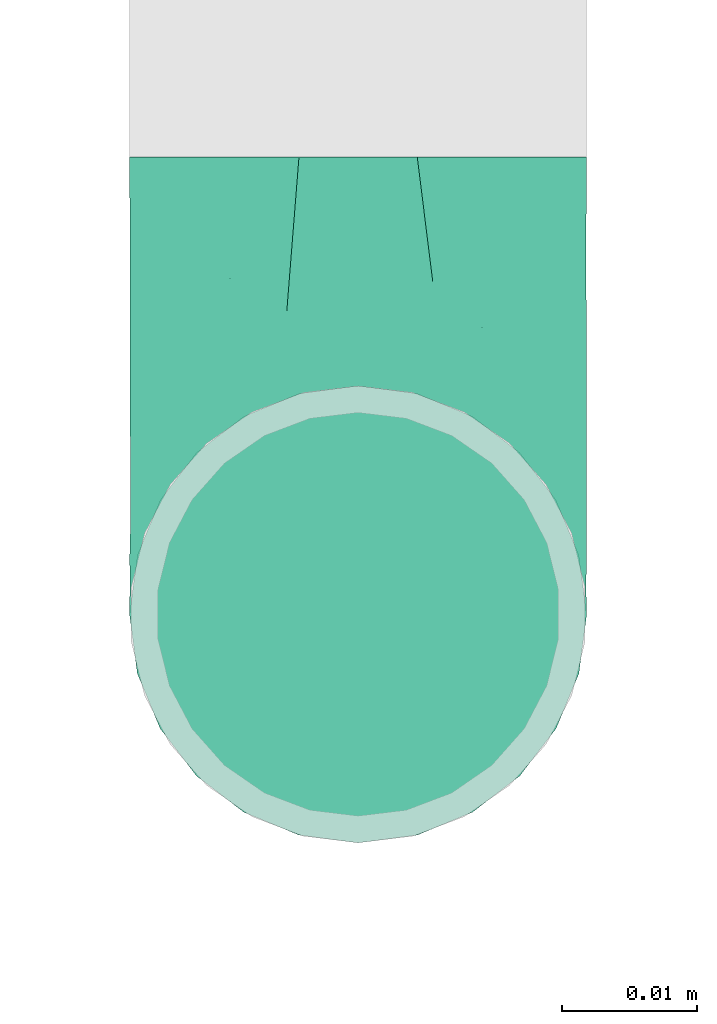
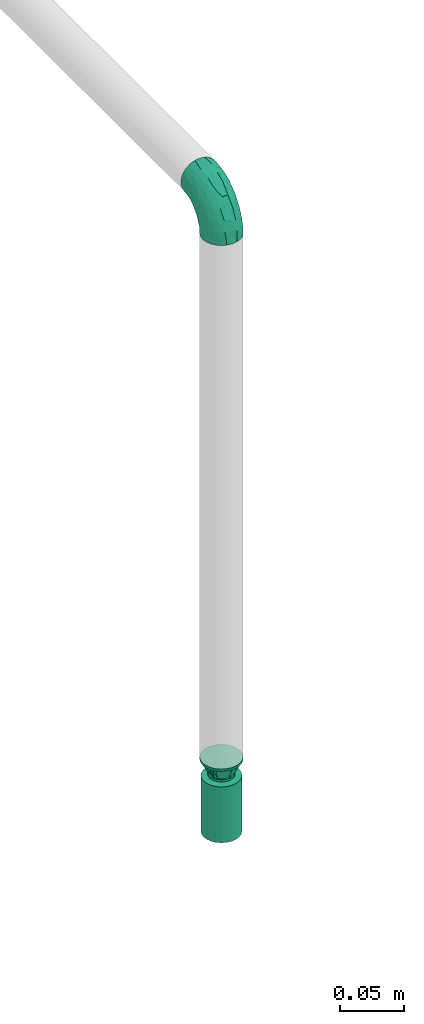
# One storey, part 39 of 95: 2 flow fittings, 1 flow terminal.
"""IFC2X3 building model written with IfcOpenShell, lengths in millimetres."""

from ifc_helpers import new_model, entity, si_unit, converted_unit, derived_unit, direction, frame, origin_with_axes, place, context, subcontext, project, spatial, open_shell, surface_model, source, transform, mapped, type_object, element, save


model = new_model("IFC2X3")

# Units and contexts
model_context = context("Model", 3, precision=0.01, world=frame((0.0, 4.29681676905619e-09, 0.0)), true_north=direction((4.01073788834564e-13, 1.0)))
plan_context = context("Plan", 3, precision=0.01, world=frame((0.0, 4.29681676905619e-09, 0.0)), true_north=direction((4.01073788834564e-13, 1.0)))
body_context = subcontext(model_context, "Body", "Model", "MODEL_VIEW")
ifc_project = project(units=[converted_unit("PLANEANGLEUNIT", "DEGREE", entity("IfcPositiveLengthMeasure", 0.0174532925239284), si_unit("PLANEANGLEUNIT", "RADIAN"), dimensions=[0, 0, 0, 0, 0, 0, 0]), si_unit("AREAUNIT", "SQUARE_METRE"), si_unit("LENGTHUNIT", "METRE", prefix="MILLI"), si_unit("MASSUNIT", "GRAM", prefix="KILO"), si_unit("POWERUNIT", "WATT"), si_unit("PRESSUREUNIT", "PASCAL"), si_unit("FORCEUNIT", "NEWTON", prefix="KILO"), si_unit("ELECTRICVOLTAGEUNIT", "VOLT"), si_unit("ELECTRICCURRENTUNIT", "AMPERE"), si_unit("THERMODYNAMICTEMPERATUREUNIT", "DEGREE_CELSIUS"), si_unit("TIMEUNIT", "SECOND"), si_unit("VOLUMEUNIT", "CUBIC_METRE"), derived_unit("LINEARVELOCITYUNIT", [(si_unit("LENGTHUNIT", "METRE"), 1), (si_unit("TIMEUNIT", "SECOND"), -1)]), derived_unit("VOLUMETRICFLOWRATEUNIT", [(si_unit("VOLUMEUNIT", "CUBIC_METRE"), 1), (si_unit("TIMEUNIT", "SECOND"), -1)]), derived_unit("THERMALTRANSMITTANCEUNIT", [(si_unit("POWERUNIT", "WATT"), 1), (si_unit("THERMODYNAMICTEMPERATUREUNIT", "KELVIN"), -1), (si_unit("AREAUNIT", "SQUARE_METRE"), -1)]), derived_unit("SOUNDPRESSUREUNIT", [(si_unit("PRESSUREUNIT", "PASCAL"), 1)])], contexts=[model_context, plan_context])

# Site, building, storey
site_placement = place(None, frame((0.0, -4.29681676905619e-09, 0.0), z_axis=(0.0, 0.0, 1.0), x_axis=(1.0, 0.0, 0.0)))
site = spatial("IfcSite", under=ifc_project, at=site_placement, CompositionType="ELEMENT")
building_placement = place(site_placement, frame((0.0, 4.29681676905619e-09, 0.0), z_axis=(0.0, 0.0, 1.0), x_axis=(1.0, 0.0, 0.0)))
building = spatial("IfcBuilding", under=site, at=building_placement, Name="mc-building", CompositionType="ELEMENT")
storey_placement = place(building_placement, frame((0.0, 0.0, 210900.0), z_axis=(0.0, 0.0, 1.0), x_axis=(1.0, 0.0, 0.0)))
storey = spatial("IfcBuildingStorey", under=building, at=storey_placement, Name="Nivå F", CompositionType="ELEMENT", Elevation=210900.0)

# Flow fittings
pipe_fitting_type_1 = type_object("IfcPipeFittingType", Name="magi_pipe_fe_reducer_centric_short_NOR", PredefinedType="TRANSITION")
shared_shape_1 = source(origin_with_axes(), body_context, "Body", "SurfaceModel", [
    surface_model("IfcShellBasedSurfaceModel", [(-2.0, -7.56604, -7.56604), (-2.0, -10.33541, -2.76936), (-2.0, -5.35, -9.26647), (-2.0, 5.35, -9.26647), (-2.0, 10.33541, -2.76936), (-2.0, 7.56604, -7.56604), (12.4, 11.9501, 11.9501), (12.4, 0.0, 16.9), (12.4, 11.9501, -11.9501), (12.4, 16.9, 0.0), (0.0, -10.7, 0.0), (0.0, -5.35, 9.26647), (0.0, -5.35, -9.26647), (0.0, 10.7, 0.0), (12.4, 15.66253, -2.98753), (12.4, 8.96258, -13.18758), (0.0, 6.6875, -6.94985), (12.4, -15.66253, -2.98753), (12.4, -16.9, 0.0), (12.4, 5.97505, -14.42505), (0.0, 5.35, -9.26647), (12.4, 14.42505, -5.97505), (0.0, 8.025, -4.63324), (0.0, 9.3625, -2.31662), (0.0, -9.3625, -2.31662), (0.0, -8.025, -4.63324), (12.4, -14.42505, -5.97505), (12.4, 13.18758, -8.96258), (12.4, -13.18758, -8.96258), (12.4, -11.9501, -11.9501), (0.0, -6.6875, -6.94985), (12.4, -8.96258, -13.18758), (12.4, -5.97505, -14.42505), (12.4, -15.66253, 2.98753), (12.4, -8.96258, 13.18758), (0.0, -6.6875, 6.94985), (12.4, -11.9501, 11.9501), (12.4, 15.66253, 2.98753), (12.4, -5.97505, 14.42505), (12.4, -14.42505, 5.97505), (0.0, -8.025, 4.63324), (0.0, -9.3625, 2.31662), (0.0, 9.3625, 2.31662), (0.0, 8.025, 4.63324), (12.4, 14.42505, 5.97505), (12.4, -13.18758, 8.96258), (12.4, 13.18758, 8.96258), (0.0, 6.6875, 6.94985), (12.4, 8.96258, 13.18758), (0.0, 5.35, 9.26647), (12.4, 5.97505, 14.42505), (14.4, 4.37404, -16.32415), (14.4, 8.45, -14.63583), (14.4, 11.9501, -11.9501), (14.4, -8.45, -14.63583), (14.4, 16.32415, -4.37404), (14.4, 16.32415, 4.37404), (14.4, 14.63583, -8.45), (14.4, 0.0, -16.9), (14.4, -4.37404, -16.32415), (14.4, -11.9501, -11.9501), (14.4, -16.32415, -4.37404), (14.4, -14.63583, -8.45), (14.4, -16.32415, 4.37404), (14.4, 16.9, 0.0), (14.4, 14.63583, 8.45), (14.4, 11.9501, 11.9501), (14.4, 4.37404, 16.32415), (14.4, 8.45, 14.63583), (14.4, 0.0, 16.9), (14.4, -14.63583, 8.45), (14.4, -16.9, 0.0), (14.4, -8.45, 14.63583), (14.4, -11.9501, 11.9501), (14.4, -4.37404, 16.32415), (12.4, 4.37404, 16.32415), (12.4, -14.63583, 8.45), (12.4, 16.32415, 4.37404), (12.4, 8.45, 14.63583), (12.4, 14.63583, 8.45), (12.4, -8.45, 14.63583), (12.4, -4.37404, 16.32415), (12.4, -16.32415, 4.37404), (12.4, -16.32415, -4.37404), (12.4, -8.45, -14.63583), (12.4, 16.32415, -4.37404), (12.4, 14.63583, -8.45), (12.4, 8.45, -14.63583), (12.4, 4.37404, -16.32415), (12.4, 0.0, -16.9), (12.4, -14.63583, -8.45), (12.4, -4.37404, -16.32415), (-2.0, 2.76936, 10.33541), (-2.0, 0.0, 10.7), (-2.0, 5.35, 9.26647), (-2.0, 7.56604, 7.56604), (-2.0, 9.26647, 5.35), (-2.0, 10.33541, 2.76936), (-2.0, -10.33541, 2.76936), (-2.0, -2.76936, 10.33541), (-2.0, -7.56604, 7.56604), (-2.0, -5.35, 9.26647), (-2.0, -9.26647, 5.35), (-2.0, -10.7, 0.0), (-2.0, 9.26647, -5.35), (-2.0, 2.76936, -10.33541), (-2.0, -9.26647, -5.35), (-2.0, 0.0, -10.7), (-2.0, -2.76936, -10.33541), (-2.0, 10.7, 0.0), (0.0, 0.0, -10.7), (0.0, 2.76936, -10.33541), (0.0, 10.33541, -2.76936), (0.0, 7.56604, -7.56604), (0.0, -10.33541, -2.76936), (0.0, 9.26647, -5.35), (0.0, 0.0, 10.7), (0.0, -2.76936, -10.33541), (0.0, -7.56604, -7.56604), (0.0, -9.26647, -5.35), (0.0, 10.33541, 2.76936), (0.0, 9.26647, 5.35), (0.0, 7.56604, 7.56604), (0.0, 2.76936, 10.33541), (0.0, -7.56604, 7.56604), (0.0, -10.33541, 2.76936), (0.0, -9.26647, 5.35), (0.0, -2.76936, 10.33541), (0.0, 2.675, -9.26647), (0.0, -2.675, -9.26647), (12.4, 2.98753, -15.66253), (0.0, 0.0, -9.26647), (12.4, -2.98753, -15.66253), (0.0, -2.675, 9.26647), (0.0, 2.675, 9.26647), (12.4, -2.98753, 15.66253), (0.0, 0.0, 9.26647), (12.4, 2.98753, 15.66253)], [open_shell([[[0, 1, 2]], [[3, 4, 5]], [[6, 7, 8]], [[8, 9, 6]], [[10, 11, 12]], [[13, 9, 14]], [[15, 16, 8]], [[17, 18, 10]], [[15, 19, 20]], [[21, 22, 23]], [[24, 25, 26]], [[22, 21, 27]], [[28, 26, 25]], [[29, 30, 31]], [[12, 32, 31]], [[10, 18, 33]], [[34, 35, 36]], [[37, 9, 13]], [[34, 38, 11]], [[39, 40, 41]], [[42, 43, 44]], [[40, 39, 45]], [[46, 44, 43]], [[6, 47, 48]], [[49, 50, 48]], [[51, 52, 53]], [[54, 51, 53]], [[53, 55, 56]], [[55, 53, 57]], [[53, 56, 54]], [[58, 54, 59]], [[58, 51, 54]], [[60, 61, 62]], [[61, 60, 54]], [[54, 63, 61]], [[56, 55, 64]], [[56, 65, 66]], [[56, 66, 67]], [[67, 63, 54]], [[67, 66, 68]], [[63, 67, 69]], [[69, 70, 63]], [[71, 61, 63]], [[70, 72, 73]], [[70, 69, 72]], [[72, 69, 74]], [[54, 56, 67]], [[75, 76, 7]], [[77, 75, 78]], [[6, 79, 77]], [[6, 77, 78]], [[76, 75, 77]], [[80, 76, 36]], [[80, 81, 7]], [[7, 76, 80]], [[82, 76, 77]], [[82, 83, 18]], [[82, 77, 84]], [[77, 85, 8]], [[8, 85, 86]], [[8, 87, 88]], [[84, 77, 8]], [[88, 89, 8]], [[83, 29, 90]], [[29, 83, 84]], [[84, 89, 91]], [[83, 82, 84]], [[8, 89, 84]], [[85, 77, 9]], [[83, 61, 18]], [[90, 62, 83]], [[54, 29, 84]], [[90, 29, 60]], [[59, 84, 91]], [[83, 62, 61]], [[61, 71, 18]], [[59, 54, 84]], [[60, 29, 54]], [[60, 62, 90]], [[58, 59, 91]], [[91, 89, 58]], [[88, 51, 89]], [[87, 52, 88]], [[57, 8, 86]], [[87, 8, 53]], [[55, 86, 85]], [[87, 53, 52]], [[52, 51, 88]], [[64, 55, 85]], [[57, 86, 55]], [[57, 53, 8]], [[9, 64, 85]], [[89, 51, 58]], [[77, 56, 9]], [[79, 65, 77]], [[68, 6, 78]], [[79, 6, 66]], [[67, 78, 75]], [[77, 65, 56]], [[56, 64, 9]], [[67, 68, 78]], [[66, 6, 68]], [[66, 65, 79]], [[69, 67, 75]], [[75, 7, 69]], [[81, 74, 7]], [[80, 72, 81]], [[70, 36, 76]], [[80, 36, 73]], [[63, 76, 82]], [[80, 73, 72]], [[72, 74, 81]], [[71, 63, 82]], [[70, 76, 63]], [[70, 73, 36]], [[18, 71, 82]], [[7, 74, 69]], [[92, 1, 93]], [[94, 1, 92]], [[95, 96, 97]], [[95, 97, 94]], [[98, 93, 1]], [[99, 100, 101]], [[99, 93, 100]], [[100, 98, 102]], [[93, 98, 100]], [[98, 1, 103]], [[94, 97, 1]], [[1, 97, 4]], [[5, 4, 104]], [[4, 3, 1]], [[105, 1, 3]], [[1, 0, 106]], [[2, 107, 108]], [[2, 1, 105]], [[105, 107, 2]], [[4, 97, 109]], [[20, 110, 111]], [[112, 20, 113]], [[114, 20, 112]], [[112, 113, 115]], [[116, 114, 112]], [[110, 12, 117]], [[110, 20, 12]], [[118, 114, 119]], [[114, 118, 12]], [[20, 114, 12]], [[112, 13, 120]], [[120, 121, 122]], [[120, 122, 123]], [[116, 112, 123]], [[123, 122, 49]], [[116, 124, 114]], [[125, 124, 126]], [[10, 114, 125]], [[124, 127, 11]], [[125, 114, 124]], [[127, 124, 116]], [[123, 112, 120]], [[1, 114, 103]], [[106, 119, 1]], [[12, 0, 2]], [[106, 0, 118]], [[117, 2, 108]], [[1, 119, 114]], [[114, 10, 103]], [[117, 12, 2]], [[118, 0, 12]], [[118, 119, 106]], [[110, 117, 108]], [[108, 107, 110]], [[105, 111, 107]], [[3, 20, 105]], [[115, 5, 104]], [[3, 5, 113]], [[112, 104, 4]], [[3, 113, 20]], [[20, 111, 105]], [[13, 112, 4]], [[115, 104, 112]], [[115, 113, 5]], [[109, 13, 4]], [[107, 111, 110]], [[97, 120, 109]], [[96, 121, 97]], [[49, 95, 94]], [[96, 95, 122]], [[123, 94, 92]], [[97, 121, 120]], [[120, 13, 109]], [[123, 49, 94]], [[122, 95, 49]], [[122, 121, 96]], [[116, 123, 92]], [[92, 93, 116]], [[99, 127, 93]], [[101, 11, 99]], [[126, 100, 102]], [[101, 100, 124]], [[125, 102, 98]], [[101, 124, 11]], [[11, 127, 99]], [[10, 125, 98]], [[126, 102, 125]], [[126, 124, 100]], [[103, 10, 98]], [[93, 127, 116]], [[18, 7, 36]], [[18, 29, 8]], [[89, 8, 29]], [[18, 8, 7]], [[13, 11, 49]], [[13, 20, 12]], [[13, 12, 11]], [[24, 26, 17]], [[10, 24, 17]], [[16, 15, 20]], [[30, 12, 31]], [[23, 14, 21]], [[19, 128, 20]], [[27, 8, 16]], [[32, 12, 129]], [[30, 28, 25]], [[130, 131, 128]], [[129, 132, 32]], [[16, 22, 27]], [[13, 14, 23]], [[128, 19, 130]], [[130, 89, 131]], [[131, 132, 129]], [[89, 132, 131]], [[28, 30, 29]], [[42, 44, 37]], [[13, 42, 37]], [[35, 34, 11]], [[47, 49, 48]], [[41, 33, 39]], [[38, 133, 11]], [[45, 36, 35]], [[50, 49, 134]], [[47, 46, 43]], [[135, 136, 133]], [[134, 137, 50]], [[35, 40, 45]], [[10, 33, 41]], [[133, 38, 135]], [[135, 7, 136]], [[136, 137, 134]], [[7, 137, 136]], [[46, 47, 6]]])]),
])
flow_fitting_1_placement = place(storey_placement, frame((522698.68266, 444207.85, 3762.948), z_axis=(-1.0, 0.0, 0.0), x_axis=(0.0, 0.0, 1.0)))
element("IfcFlowFitting", 1, at=flow_fitting_1_placement, inside=storey, type_object=pipe_fitting_type_1, Name="magi_pipe_fe_reducer_centric_short_NOR", context=body_context, shape_type="MappedRepresentation", body=[
    mapped(shared_shape_1, transform((0.0, 0.0, 0.0), scale=1.0)),
])
pipe_fitting_type_2 = type_object("IfcPipeFittingType", Name="magi_pipe_fe_elbow_short_001", PredefinedType="BEND")
shared_shape_2 = source(origin_with_axes(), body_context, "Body", "SurfaceModel", [
    surface_model("IfcShellBasedSurfaceModel", [(-33.8, 8.45, -14.63583), (-33.8, 4.37404, -16.32415), (-33.8, 11.9501, -11.9501), (-33.8, -11.9501, -11.9501), (-33.8, -14.63583, -8.45), (-33.8, -8.45, -14.63583), (-33.8, 0.0, -16.9), (-33.8, -4.37404, -16.32415), (-33.8, -4.37404, 16.32415), (-33.8, 0.0, 16.9), (-33.8, -8.45, 14.63583), (-33.8, 16.32415, -4.37404), (-33.8, 14.63583, -8.45), (-33.8, -16.32415, -4.37404), (-33.8, -16.9, 0.0), (-33.8, -16.32415, 4.37404), (-33.8, 11.9501, 11.9501), (-33.8, 14.63583, 8.45), (-33.8, 16.32415, 4.37404), (-33.8, 4.37404, 16.32415), (-33.8, 8.45, 14.63583), (-33.8, -14.63583, 8.45), (-33.8, -11.9501, 11.9501), (-33.8, 16.9, 0.0), (-11.9501, 33.8, -11.9501), (0.0, 33.8, -16.9), (-4.37404, 33.8, -16.32415), (-8.45, 33.8, -14.63583), (-14.63583, 33.8, -8.45), (-16.32415, 33.8, -4.37404), (14.63583, 33.8, -8.45), (8.45, 33.8, 14.63583), (16.32415, 33.8, -4.37404), (8.45, 33.8, -14.63583), (11.9501, 33.8, -11.9501), (4.37404, 33.8, -16.32415), (16.32415, 33.8, 4.37404), (16.9, 33.8, 0.0), (-11.9501, 33.8, 11.9501), (-16.32415, 33.8, 4.37404), (-14.63583, 33.8, 8.45), (-8.45, 33.8, 14.63583), (-4.37404, 33.8, 16.32415), (11.9501, 33.8, 11.9501), (14.63583, 33.8, 8.45), (0.0, 33.8, 16.9), (4.37404, 33.8, 16.32415), (-16.9, 33.8, 0.0), (-24.79389, -13.12945, 9.48721), (-22.19287, -9.75018, 12.59315), (-24.09897, -14.97035, 0.0), (-14.93934, -10.76256, 8.5297), (-22.46095, -14.75051, 5.27077), (14.75051, 22.46094, 5.27077), (11.9251, 13.23888, 4.33236), (13.04069, 14.39795, 0.0), (7.71387, 13.68847, 11.55891), (9.75018, 22.19287, 12.59315), (4.10169, 13.0571, 14.04018), (-24.84007, -6.39063, 15.2048), (-25.81779, -2.23879, 16.61097), (-23.66549, 2.59054, 16.87119), (-26.50418, 14.06512, 11.08152), (-24.21253, 17.66365, 7.72657), (-29.58514, 15.86957, 7.00283), (-6.17382, -7.5455, 0.0), (-13.23888, -11.9251, 4.33236), (-14.39795, -13.04069, 0.0), (-17.81434, 18.87373, 11.97104), (-6.30846, 29.15138, 15.82987), (-2.31622, 25.28002, 16.85849), (-29.23923, 10.23435, 13.77053), (-1.45439, -2.85688, 7.61475), (-0.28326, 0.34872, 10.09509), (-5.74484, -4.04709, 10.4122), (-4.41137, 11.31918, 16.59407), (-8.39727, 3.10034, 15.7812), (-1.72649, 9.1306, 15.53089), (-17.39909, 24.75344, 7.64977), (-26.19233, 20.0512, 0.0), (-28.14518, 17.29657, 4.25857), (-26.05147, 6.6281, 15.96447), (-5.87354, 16.61944, 16.86968), (-12.51807, 12.51807, 16.48937), (-10.06312, 7.38516, 16.81295), (-3.01882, 3.01882, 13.81718), (-13.0571, -4.10169, 14.04018), (-16.82553, -0.15166, 16.38038), (10.76256, 14.93934, 8.5297), (13.12945, 24.79389, 9.48721), (6.39063, 24.84007, 15.2048), (2.23879, 25.81779, 16.61097), (-13.68847, -7.71387, 11.55891), (14.97035, 24.09897, 0.0), (-7.30894, 22.89991, 16.09489), (-10.67958, 26.17414, 14.008), (-12.78295, 18.26924, 15.06066), (-13.88562, 22.45231, 12.93244), (-18.04944, 15.16501, 14.04434), (-23.11658, 20.08178, 4.02986), (-21.84989, 21.84989, 0.0), (-18.55817, 25.48277, 3.93065), (-13.95142, 26.94732, 11.03289), (-18.57098, 7.23906, 16.59756), (-16.58335, 4.14122, 16.89279), (-17.96666, 11.46709, 15.63151), (-9.84453, 17.54304, 16.18938), (0.15166, 16.82553, 16.38038), (-23.27207, 11.47201, 14.23154), (3.84842, 5.86994, 10.70473), (-8.0212, -7.54413, 7.93275), (1.00345, -2.19508, 4.57414), (5.13203, 3.01004, 5.90201), (5.24161, 1.7543, 2.53265), (8.70457, 7.04947, 3.99182), (-20.0512, 26.19233, 0.0), (8.4852, 8.76699, 7.09296), (-4.55488, -6.72064, 4.90681), (2.05031, -2.05031, 0.0), (7.5455, 6.17382, 0.0), (-26.75399, 2.1369, -16.845), (-14.61995, 24.73803, -11.27736), (-28.45274, -13.45335, -9.81895), (-26.00469, 6.63555, -15.96645), (-23.06726, 20.04573, -4.26202), (-13.80647, -4.26506, -14.17873), (-14.67501, -0.21081, -16.07388), (-6.7902, -0.2828, -13.8478), (-24.53586, 11.08096, -14.13417), (-26.72048, 14.00837, -11.05776), (10.0967, 24.44989, -12.75976), (5.83237, 21.40218, -15.03047), (6.66249, 28.54238, -15.38093), (-20.38182, 15.48705, -12.74596), (12.53268, 21.23441, -9.15363), (12.54494, 15.67504, -5.54878), (9.7522, 12.89279, -8.66343), (-15.65186, 19.64213, -13.01327), (-12.03528, 20.66498, -14.67665), (-15.61907, 15.61906, -14.83879), (-25.56551, -15.26206, 0.0), (-24.65452, -15.12934, -5.50955), (13.45335, 28.45274, -9.81895), (15.12934, 24.65452, -5.50955), (-7.35442, -8.31014, -5.65563), (-15.67504, -12.54494, -5.54878), (-24.44989, -10.0967, -12.75976), (0.16522, 0.41303, -9.71728), (-5.70658, -5.33066, -8.89288), (-5.13869, -2.37198, -11.53565), (-21.23441, -12.53268, -9.15363), (0.71146, 7.93863, -14.09382), (0.21081, 14.67501, -16.07388), (3.49291, 14.42772, -14.76381), (-24.89911, -2.13088, -16.591), (-28.54238, -6.66249, -15.38093), (-18.44386, -7.71663, -13.26957), (2.13088, 24.89911, -16.591), (-28.64342, 17.44413, -2.89318), (1.70017, -1.28722, -5.09504), (-16.57067, 26.81947, -7.36596), (-17.69055, 27.4263, -3.76405), (-12.89279, -9.7522, -8.66343), (-5.96611, 5.96611, -15.95814), (-20.53709, 20.09345, -8.28985), (-2.1369, 26.75399, -16.845), (-6.89872, 24.58781, -16.02578), (-10.60739, 26.53157, -13.98044), (-21.40218, -5.83237, -15.03047), (2.93192, 5.89627, -11.55917), (6.89393, 12.61842, -11.82233), (5.58056, 5.95325, -8.79455), (-3.99512, 18.61798, -16.89635), (8.31014, 7.35442, -5.65563), (-9.1383, 9.86148, -16.89041), (-9.99983, 16.02119, -16.39699), (-16.68576, 9.78031, -16.34199), (-27.01915, 16.61158, -7.12979), (15.26206, 25.56551, 0.0), (-18.61798, 3.99512, -16.89635), (-19.37495, 27.82495, 0.0), (-12.61842, -6.89393, -11.82233), (-18.84705, 19.14018, -10.96545)], [open_shell([[[0, 1, 2]], [[3, 4, 5]], [[6, 7, 5]], [[8, 9, 10]], [[1, 6, 2]], [[11, 12, 2]], [[4, 2, 6]], [[2, 13, 10]], [[5, 4, 6]], [[2, 4, 13]], [[14, 15, 13]], [[11, 2, 16]], [[11, 17, 18]], [[11, 16, 17]], [[19, 20, 16]], [[16, 2, 10]], [[19, 16, 10]], [[21, 22, 15]], [[22, 13, 15]], [[22, 10, 13]], [[10, 9, 19]], [[11, 18, 23]], [[24, 25, 26]], [[24, 26, 27]], [[24, 28, 29]], [[25, 24, 30]], [[31, 32, 24]], [[33, 30, 34]], [[33, 35, 25]], [[25, 30, 33]], [[32, 30, 24]], [[32, 36, 37]], [[38, 24, 29]], [[39, 40, 29]], [[40, 38, 29]], [[38, 41, 42]], [[38, 31, 24]], [[31, 38, 42]], [[36, 43, 44]], [[36, 32, 43]], [[31, 45, 46]], [[32, 31, 43]], [[42, 45, 31]], [[39, 29, 47]], [[22, 48, 49]], [[15, 14, 50]], [[51, 48, 52]], [[53, 54, 55]], [[48, 22, 21]], [[15, 52, 21]], [[56, 57, 58]], [[49, 10, 22]], [[49, 59, 10]], [[9, 60, 61]], [[62, 63, 64]], [[65, 66, 67]], [[57, 43, 31]], [[62, 68, 63]], [[42, 69, 70]], [[20, 71, 16]], [[8, 60, 9]], [[72, 73, 74]], [[75, 76, 77]], [[16, 62, 17]], [[40, 39, 78]], [[79, 23, 80]], [[64, 18, 17]], [[9, 61, 19]], [[19, 81, 20]], [[82, 83, 84]], [[74, 85, 86]], [[59, 86, 87]], [[88, 89, 57]], [[90, 31, 46]], [[44, 53, 36]], [[46, 45, 91]], [[54, 53, 88]], [[44, 89, 53]], [[92, 86, 49]], [[89, 44, 43]], [[10, 59, 8]], [[53, 55, 93]], [[93, 36, 53]], [[66, 52, 67]], [[94, 82, 70]], [[95, 96, 94]], [[97, 98, 96]], [[79, 99, 100]], [[41, 38, 95]], [[101, 100, 99]], [[68, 78, 63]], [[42, 41, 69]], [[23, 18, 80]], [[95, 94, 69]], [[78, 101, 99]], [[38, 102, 95]], [[70, 45, 42]], [[97, 95, 102]], [[15, 50, 52]], [[90, 57, 31]], [[57, 90, 58]], [[81, 19, 61]], [[103, 104, 84]], [[105, 81, 103]], [[38, 40, 102]], [[106, 96, 83]], [[94, 106, 82]], [[91, 70, 107]], [[71, 62, 16]], [[62, 108, 98]], [[86, 59, 49]], [[67, 52, 50]], [[60, 59, 87]], [[92, 49, 51]], [[86, 85, 76]], [[91, 90, 46]], [[37, 36, 93]], [[107, 77, 58]], [[107, 58, 90]], [[58, 85, 109]], [[110, 74, 92]], [[72, 74, 110]], [[66, 51, 52]], [[72, 111, 112]], [[113, 114, 112]], [[56, 88, 57]], [[52, 48, 21]], [[49, 48, 51]], [[57, 89, 43]], [[53, 89, 88]], [[103, 81, 61]], [[71, 81, 108]], [[18, 64, 80]], [[63, 78, 99]], [[47, 115, 101]], [[101, 115, 100]], [[40, 78, 102]], [[68, 102, 78]], [[97, 96, 95]], [[105, 98, 108]], [[103, 84, 83]], [[107, 70, 82]], [[76, 84, 87]], [[82, 84, 75]], [[70, 91, 45]], [[90, 91, 107]], [[59, 60, 8]], [[61, 60, 87]], [[73, 85, 74]], [[109, 112, 116]], [[103, 61, 104]], [[105, 103, 83]], [[96, 105, 83]], [[81, 105, 108]], [[96, 98, 105]], [[62, 98, 68]], [[61, 87, 104]], [[87, 84, 104]], [[86, 76, 87]], [[77, 76, 85]], [[58, 77, 85]], [[75, 77, 107]], [[82, 75, 107]], [[76, 75, 84]], [[81, 71, 20]], [[62, 71, 108]], [[95, 69, 41]], [[70, 69, 94]], [[62, 64, 17]], [[80, 63, 99]], [[63, 80, 64]], [[80, 99, 79]], [[66, 65, 117]], [[110, 66, 117]], [[112, 114, 116]], [[118, 117, 65]], [[110, 92, 51]], [[112, 111, 113]], [[119, 55, 54]], [[74, 86, 92]], [[58, 109, 56]], [[116, 56, 109]], [[66, 110, 51]], [[72, 110, 117]], [[111, 72, 117]], [[73, 112, 109]], [[117, 118, 111]], [[113, 111, 118]], [[118, 119, 113]], [[114, 119, 54]], [[119, 114, 113]], [[116, 54, 88]], [[54, 116, 114]], [[116, 88, 56]], [[112, 73, 72]], [[85, 73, 109]], [[78, 39, 101]], [[47, 101, 39]], [[102, 68, 97]], [[97, 68, 98]], [[82, 106, 83]], [[94, 96, 106]], [[1, 120, 6]], [[28, 24, 121]], [[3, 122, 4]], [[0, 123, 1]], [[100, 124, 79]], [[125, 126, 127]], [[128, 2, 129]], [[130, 131, 132]], [[128, 129, 133]], [[134, 135, 136]], [[137, 138, 139]], [[128, 0, 2]], [[67, 140, 141]], [[134, 142, 143]], [[141, 13, 4]], [[144, 65, 145]], [[146, 3, 5]], [[147, 148, 149]], [[145, 141, 150]], [[151, 152, 153]], [[154, 7, 6]], [[5, 155, 146]], [[150, 146, 156]], [[155, 5, 7]], [[143, 135, 134]], [[35, 157, 25]], [[23, 79, 158]], [[148, 159, 144]], [[160, 161, 29]], [[145, 162, 144]], [[163, 152, 151]], [[29, 28, 160]], [[121, 164, 160]], [[33, 34, 130]], [[25, 165, 26]], [[26, 165, 166]], [[142, 34, 30]], [[24, 27, 167]], [[124, 161, 164]], [[157, 35, 132]], [[155, 154, 168]], [[123, 0, 128]], [[169, 170, 171]], [[172, 157, 152]], [[26, 166, 27]], [[132, 35, 33]], [[142, 130, 34]], [[168, 154, 126]], [[136, 135, 173]], [[133, 137, 139]], [[2, 12, 129]], [[170, 131, 130]], [[30, 32, 143]], [[172, 174, 175]], [[176, 123, 128]], [[158, 177, 11]], [[135, 55, 119]], [[167, 27, 166]], [[175, 166, 172]], [[137, 167, 138]], [[122, 141, 4]], [[140, 14, 13]], [[32, 37, 178]], [[170, 130, 134]], [[152, 157, 131]], [[165, 157, 172]], [[153, 170, 151]], [[152, 163, 174]], [[168, 125, 156]], [[122, 146, 150]], [[120, 154, 6]], [[179, 174, 126]], [[179, 126, 154]], [[126, 163, 127]], [[162, 145, 150]], [[140, 13, 141]], [[32, 178, 143]], [[55, 143, 178]], [[177, 129, 12]], [[128, 133, 139]], [[176, 128, 139]], [[120, 123, 179]], [[121, 160, 28]], [[161, 100, 180]], [[166, 175, 138]], [[121, 24, 167]], [[161, 47, 29]], [[79, 124, 158]], [[124, 164, 177]], [[161, 124, 100]], [[136, 171, 170]], [[127, 163, 151]], [[147, 171, 159]], [[148, 144, 162]], [[127, 151, 169]], [[127, 181, 125]], [[129, 177, 164]], [[12, 11, 177]], [[159, 65, 144]], [[67, 141, 145]], [[143, 55, 135]], [[135, 119, 173]], [[123, 120, 1]], [[154, 120, 179]], [[157, 165, 25]], [[166, 165, 172]], [[172, 152, 174]], [[176, 139, 175]], [[126, 174, 163]], [[176, 174, 179]], [[174, 176, 175]], [[123, 176, 179]], [[150, 181, 162]], [[127, 149, 181]], [[181, 148, 162]], [[159, 148, 147]], [[171, 136, 173]], [[170, 134, 136]], [[159, 171, 173]], [[171, 147, 169]], [[169, 147, 149]], [[151, 170, 169]], [[164, 182, 129]], [[182, 121, 137]], [[181, 149, 148]], [[169, 149, 127]], [[182, 137, 133]], [[167, 137, 121]], [[166, 138, 167]], [[175, 139, 138]], [[129, 182, 133]], [[121, 182, 164]], [[161, 160, 164]], [[47, 161, 180]], [[177, 158, 124]], [[23, 158, 11]], [[130, 132, 33]], [[157, 132, 131]], [[143, 142, 30]], [[130, 142, 134]], [[154, 155, 7]], [[146, 155, 168]], [[146, 122, 3]], [[141, 122, 150]], [[152, 131, 153]], [[159, 119, 118]], [[67, 145, 65]], [[170, 153, 131]], [[119, 159, 173]], [[159, 118, 65]], [[156, 125, 181]], [[126, 125, 168]], [[150, 156, 181]], [[168, 156, 146]]])]),
])
flow_fitting_2_placement = place(storey_placement, frame((522698.68266, 444207.85, 4308.26618000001), z_axis=(-1.0, 0.0, 0.0), x_axis=(0.0, 0.0, 1.0)))
element("IfcFlowFitting", 2, at=flow_fitting_2_placement, inside=storey, type_object=pipe_fitting_type_2, Name="magi_pipe_fe_elbow_short_001", context=body_context, shape_type="MappedRepresentation", body=[
    mapped(shared_shape_2, transform((0.0, 0.0, 0.0), scale=1.0)),
])

# Flow terminal
fire_suppression_terminal_type = type_object("IfcFireSuppressionTerminalType", Name="SP-15-K80-68DGR-STD", PredefinedType="NOTDEFINED")
shared_shape_3 = source(origin_with_axes(), body_context, "Body", "SurfaceModel", [
    surface_model("IfcShellBasedSurfaceModel", [(15.45481, -4.1411, 53.0), (13.85641, -8.0, 53.0), (15.45481, -4.1411, 0.0), (16.0, 0.0, 0.0), (16.0, 0.0, 53.0), (15.45481, 4.1411, 0.0), (13.85641, 8.0, 53.0), (15.45481, 4.1411, 53.0), (11.31371, 11.31371, 53.0), (8.0, 13.85641, 53.0), (4.1411, 15.45481, 53.0), (-8.0, 13.85641, 53.0), (-4.1411, 15.45481, 53.0), (0.0, 16.0, 53.0), (-11.31371, 11.31371, 53.0), (-13.85641, 8.0, 53.0), (-15.45481, 4.1411, 53.0), (11.31371, -11.31371, 53.0), (-16.0, 0.0, 53.0), (0.0, -16.0, 53.0), (4.1411, -15.45481, 53.0), (8.0, -13.85641, 53.0), (-13.85641, -8.0, 53.0), (-11.31371, -11.31371, 53.0), (-15.45481, -4.1411, 53.0), (-8.0, -13.85641, 53.0), (-4.1411, -15.45481, 53.0), (8.0, -13.85641, 0.0), (4.1411, -15.45481, 0.0), (0.0, -16.0, 0.0), (-4.1411, -15.45481, 0.0), (13.85641, -8.0, 0.0), (11.31371, -11.31371, 0.0), (-16.0, 0.0, 0.0), (-8.0, -13.85641, 0.0), (-11.31371, -11.31371, 0.0), (-13.85641, -8.0, 0.0), (-15.45481, -4.1411, 0.0), (4.1411, 15.45481, 0.0), (13.85641, 8.0, 0.0), (8.0, 13.85641, 0.0), (11.31371, 11.31371, 0.0), (-15.45481, 4.1411, 0.0), (-11.31371, 11.31371, 0.0), (-8.0, 13.85641, 0.0), (-13.85641, 8.0, 0.0), (-4.1411, 15.45481, 0.0), (0.0, 16.0, 0.0)], [open_shell([[[0, 1, 2]], [[3, 4, 0]], [[5, 6, 7]], [[7, 4, 3]], [[8, 9, 10]], [[8, 10, 11]], [[8, 4, 7]], [[6, 8, 7]], [[4, 8, 11]], [[12, 11, 13]], [[11, 10, 13]], [[14, 15, 11]], [[16, 11, 15]], [[11, 16, 4]], [[16, 0, 4]], [[17, 1, 0]], [[18, 17, 16]], [[19, 20, 21]], [[18, 21, 17]], [[21, 18, 19]], [[22, 23, 24]], [[18, 24, 23]], [[25, 26, 23]], [[18, 23, 26]], [[26, 19, 18]], [[0, 16, 17]], [[27, 28, 29]], [[27, 29, 30]], [[2, 31, 32]], [[32, 27, 33]], [[2, 32, 33]], [[34, 35, 30]], [[36, 30, 35]], [[36, 37, 30]], [[37, 27, 30]], [[37, 33, 27]], [[33, 5, 2]], [[38, 5, 33]], [[39, 5, 38]], [[38, 40, 41]], [[39, 38, 41]], [[33, 42, 38]], [[43, 44, 45]], [[42, 45, 44]], [[46, 47, 44]], [[38, 42, 44]], [[44, 47, 38]], [[5, 3, 2]], [[45, 42, 16]], [[45, 15, 43]], [[46, 44, 11]], [[14, 44, 43]], [[47, 46, 12]], [[33, 18, 42]], [[18, 16, 42]], [[16, 15, 45]], [[15, 14, 43]], [[44, 14, 11]], [[11, 12, 46]], [[12, 13, 47]], [[40, 38, 10]], [[40, 9, 41]], [[5, 39, 6]], [[8, 39, 41]], [[3, 5, 7]], [[13, 10, 38]], [[10, 9, 40]], [[9, 8, 41]], [[8, 6, 39]], [[47, 13, 38]], [[2, 3, 0]], [[31, 2, 1]], [[28, 27, 21]], [[29, 28, 20]], [[1, 17, 32]], [[17, 27, 32]], [[21, 27, 17]], [[21, 20, 28]], [[31, 1, 32]], [[20, 19, 29]], [[34, 30, 26]], [[34, 25, 35]], [[37, 36, 22]], [[23, 36, 35]], [[33, 37, 24]], [[19, 26, 30]], [[26, 25, 34]], [[25, 23, 35]], [[23, 22, 36]], [[37, 22, 24]], [[24, 18, 33]], [[29, 19, 30]]])]),
])
flow_terminal_placement = place(storey_placement, frame((522698.68266, 444207.85, 3759.89999999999), z_axis=(0.0, 0.0, -1.0), x_axis=(1.0, 0.0, 0.0)))
element("IfcFlowTerminal", 3, at=flow_terminal_placement, inside=storey, type_object=fire_suppression_terminal_type, Name="SP-15-K80-68DGR-STD", context=body_context, shape_type="MappedRepresentation", body=[
    mapped(shared_shape_3, transform((0.0, 0.0, 0.0), scale=1.0)),
])

save(model, "model.ifc")
